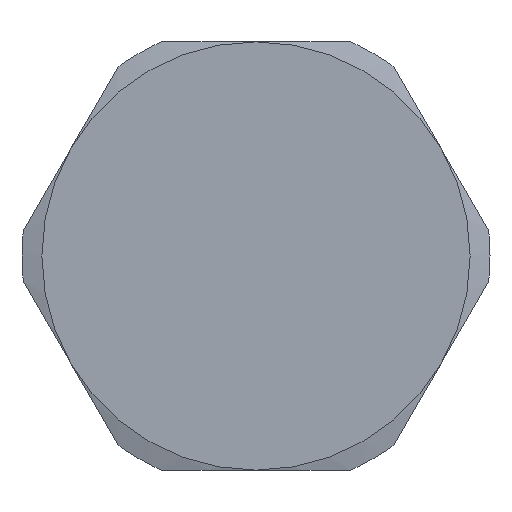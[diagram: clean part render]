
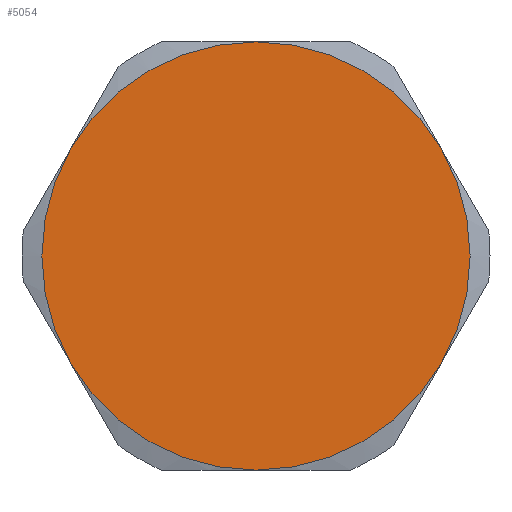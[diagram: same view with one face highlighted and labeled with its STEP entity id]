
A CAD part, left-side view. The second image highlights one B-rep face of the part: STEP entity #5054.
In plain terms, the highlighted planar face has unit normal (-1, 0, 0).
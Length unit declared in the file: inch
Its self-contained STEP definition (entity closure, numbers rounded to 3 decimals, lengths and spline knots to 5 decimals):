
#4542=CARTESIAN_POINT('',(-0.219,-0.43301,0.25));
#4543=VERTEX_POINT('',#4542);
#4567=CARTESIAN_POINT('',(-0.219,0.,0.5));
#4568=VERTEX_POINT('',#4567);
#4582=CARTESIAN_POINT('',(-0.219,0.,0.));
#4583=DIRECTION('',(-1.0,0.0,0.0));
#4584=DIRECTION('',(0.0,0.0,1.0));
#4585=AXIS2_PLACEMENT_3D('',#4582,#4583,#4584);
#4586=CIRCLE('',#4585,0.5);
#4587=EDGE_CURVE('',#4543,#4568,#4586,.T.);
#4597=CARTESIAN_POINT('',(-0.219,-0.43301,-0.25));
#4598=VERTEX_POINT('',#4597);
#4635=CARTESIAN_POINT('',(-0.219,0.,0.));
#4636=DIRECTION('',(-1.0,0.0,0.0));
#4637=DIRECTION('',(0.0,0.0,1.0));
#4638=AXIS2_PLACEMENT_3D('',#4635,#4636,#4637);
#4639=CIRCLE('',#4638,0.5);
#4640=EDGE_CURVE('',#4598,#4543,#4639,.T.);
#4650=CARTESIAN_POINT('',(-0.219,0.,-0.5));
#4651=VERTEX_POINT('',#4650);
#4688=CARTESIAN_POINT('',(-0.219,0.,0.));
#4689=DIRECTION('',(-1.0,0.0,0.0));
#4690=DIRECTION('',(0.0,0.0,1.0));
#4691=AXIS2_PLACEMENT_3D('',#4688,#4689,#4690);
#4692=CIRCLE('',#4691,0.5);
#4693=EDGE_CURVE('',#4651,#4598,#4692,.T.);
#4718=CARTESIAN_POINT('',(-0.219,0.43301,-0.25));
#4719=VERTEX_POINT('',#4718);
#4720=CARTESIAN_POINT('',(-0.219,0.,0.));
#4721=DIRECTION('',(-1.0,0.0,0.0));
#4722=DIRECTION('',(0.0,0.0,1.0));
#4723=AXIS2_PLACEMENT_3D('',#4720,#4721,#4722);
#4724=CIRCLE('',#4723,0.5);
#4725=EDGE_CURVE('',#4719,#4651,#4724,.T.);
#4771=CARTESIAN_POINT('',(-0.219,0.43301,0.25));
#4772=VERTEX_POINT('',#4771);
#4773=CARTESIAN_POINT('',(-0.219,0.,0.));
#4774=DIRECTION('',(-1.0,0.0,0.0));
#4775=DIRECTION('',(0.0,0.0,1.0));
#4776=AXIS2_PLACEMENT_3D('',#4773,#4774,#4775);
#4777=CIRCLE('',#4776,0.5);
#4778=EDGE_CURVE('',#4772,#4719,#4777,.T.);
#4824=CARTESIAN_POINT('',(-0.219,0.,0.));
#4825=DIRECTION('',(-1.0,0.0,0.0));
#4826=DIRECTION('',(0.0,0.0,1.0));
#4827=AXIS2_PLACEMENT_3D('',#4824,#4825,#4826);
#4828=CIRCLE('',#4827,0.5);
#4829=EDGE_CURVE('',#4568,#4772,#4828,.T.);
#5041=CARTESIAN_POINT('',(-0.219,0.,0.));
#5042=DIRECTION('',(-1.0,0.0,0.0));
#5043=DIRECTION('',(0.0,0.0,1.0));
#5044=AXIS2_PLACEMENT_3D('',#5041,#5042,#5043);
#5045=PLANE('',#5044);
#5046=ORIENTED_EDGE('',*,*,#4829,.T.);
#5047=ORIENTED_EDGE('',*,*,#4778,.T.);
#5048=ORIENTED_EDGE('',*,*,#4725,.T.);
#5049=ORIENTED_EDGE('',*,*,#4693,.T.);
#5050=ORIENTED_EDGE('',*,*,#4640,.T.);
#5051=ORIENTED_EDGE('',*,*,#4587,.T.);
#5052=EDGE_LOOP('',(#5046,#5047,#5048,#5049,#5050,#5051));
#5053=FACE_OUTER_BOUND('',#5052,.T.);
#5054=ADVANCED_FACE('',(#5053),#5045,.T.);
